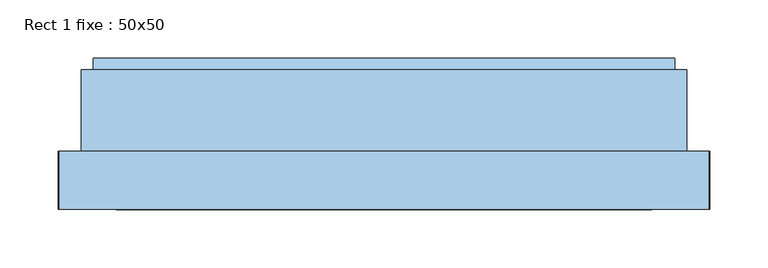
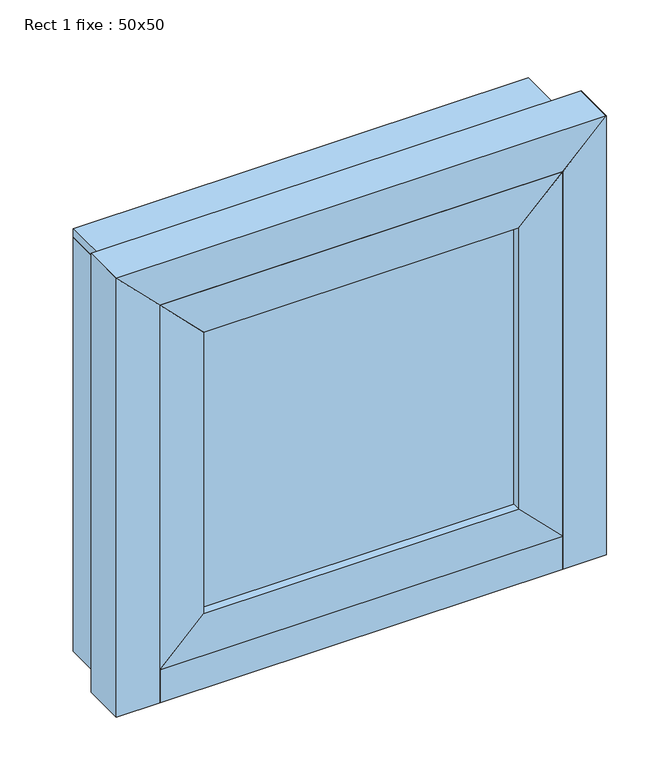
"""IFC4 building model written with IfcOpenShell, lengths in millimetres: window geometry, Rect 1 fixe : 50x50."""

from ifc_helpers import new_model, si_unit, frame, origin, place, context, project, spatial, polyline, outline, extrude, faceted_brep, source, transform, mapped, element, save


def rect_1_fixe_50x50_addd11ee(model_context):
    return source(origin(), model_context, "Body", "SolidModel", [
        extrude(outline(polyline([(1840.0, 180.0), (1840.0, -180.0), (1790.0, -230.0), (1790.0, 230.0), (1840.0, 180.0)])), frame((0.0, -150.0, 0.0), z_axis=(0.0, 1.0, 0.0), x_axis=(0.0, 0.0, 1.0)), (0.0, 0.0, 1.0), 40.0),
        extrude(outline(polyline([(2180.0, 180.0), (1840.0, 180.0), (1790.0, 230.0), (2230.0, 230.0), (2180.0, 180.0)])), frame((0.0, -150.0, 0.0), z_axis=(0.0, 1.0, 0.0), x_axis=(0.0, 0.0, 1.0)), (0.0, 0.0, 1.0), 40.0),
        extrude(outline(polyline([(1840.0, -180.0), (2180.0, -180.0), (2230.0, -230.0), (1790.0, -230.0), (1840.0, -180.0)])), frame((0.0, -150.0, 0.0), z_axis=(0.0, 1.0, 0.0), x_axis=(0.0, 0.0, 1.0)), (0.0, 0.0, 1.0), 40.0),
        extrude(outline(polyline([(-180.0, -140.0), (-180.0, -120.0), (180.0, -120.0), (180.0, -140.0), (-180.0, -140.0)])), frame((0.0, 0.0, 1840.0), z_axis=(0.0, 0.0, 1.0), x_axis=(1.0, 0.0, 0.0)), (0.0, 0.0, 1.0), 340.0),
        extrude(outline(polyline([(2180.0, -180.0), (2180.0, 180.0), (2230.0, 230.0), (2230.0, -230.0), (2180.0, -180.0)])), frame((0.0, -150.0, 0.0), z_axis=(0.0, 1.0, 0.0), x_axis=(0.0, 0.0, 1.0)), (0.0, 0.0, 1.0), 40.0),
        faceted_brep([(-230.0, -100.0, 1790.0), (-230.0, -100.0, 1789.7190155), (-230.0, -100.0, 1750.0), (-230.0, -150.0, 1750.0), (-230.0, -150.0, 1790.0), (230.0, -100.0, 1750.0), (230.0, -100.0, 1789.7190155), (230.0, -100.0, 1790.0), (230.0, -150.0, 1790.0), (230.0, -150.0, 1750.0), (-250.0, -100.0, 1750.0), (-250.0, -20.0, 1750.0), (250.0, -20.0, 1750.0), (250.0, -100.0, 1750.0), (-250.0, -100.0, 1789.7190155), (-250.0, -20.0, 1780.0), (250.0, -20.0, 1780.0), (250.0, -100.0, 1789.7190155)], [[[0, 1, 2, 3, 4]], [[5, 6, 7, 8, 9]], [[4, 8, 7, 0]], [[3, 9, 8, 4]], [[2, 10, 11, 12, 13, 5, 9, 3]], [[7, 6, 1, 0]], [[10, 14, 15, 11]], [[13, 12, 16, 17]], [[15, 16, 12, 11]], [[14, 1, 6, 17, 16, 15]], [[10, 2, 1, 14]], [[17, 6, 5, 13]]]),
        extrude(outline(polyline([(260.0, -100.0), (250.0, -100.0), (250.0, -30.0), (260.0, -30.0), (260.0, -100.0)])), frame((0.0, 0.0, 1750.0), z_axis=(0.0, 0.0, 1.0), x_axis=(1.0, 0.0, 0.0)), (0.0, 0.0, 1.0), 500.0),
        extrude(outline(polyline([(-260.0, -100.0), (-260.0, -30.0), (-250.0, -30.0), (-250.0, -100.0), (-260.0, -100.0)])), frame((0.0, 0.0, 1750.0), z_axis=(0.0, 0.0, 1.0), x_axis=(1.0, 0.0, 0.0)), (0.0, 0.0, 1.0), 500.0),
        extrude(outline(polyline([(2280.0, 280.0), (2230.0, 230.0), (1750.0, 230.0), (1750.0, 280.0), (2280.0, 280.0)])), frame((0.0, -150.0, 0.0), z_axis=(0.0, 1.0, 0.0), x_axis=(0.0, 0.0, 1.0)), (0.0, 0.0, 1.0), 50.0),
        extrude(outline(polyline([(2280.0, -280.0), (1750.0, -280.0), (1750.0, -230.0), (2230.0, -230.0), (2280.0, -280.0)])), frame((0.0, -150.0, 0.0), z_axis=(0.0, 1.0, 0.0), x_axis=(0.0, 0.0, 1.0)), (0.0, 0.0, 1.0), 50.0),
        extrude(outline(polyline([(-260.0, -30.0), (260.0, -30.0), (260.0, -100.0), (-260.0, -100.0), (-260.0, -30.0)])), frame((0.0, 0.0, 2250.0), z_axis=(0.0, 0.0, 1.0), x_axis=(1.0, 0.0, 0.0)), (0.0, 0.0, 1.0), 10.0),
        extrude(outline(polyline([(2280.0, 280.0), (2280.0, -280.0), (2230.0, -230.0), (2230.0, 230.0), (2280.0, 280.0)])), frame((0.0, -150.0, 0.0), z_axis=(0.0, 1.0, 0.0), x_axis=(0.0, 0.0, 1.0)), (0.0, 0.0, 1.0), 50.0),
    ])


if __name__ == "__main__":
    model = new_model("IFC4")
    model_context = context("Model", 3, world=origin())
    ifc_project = project(units=[si_unit("LENGTHUNIT", "METRE", prefix="MILLI")], contexts=[model_context])
    site = spatial("IfcSite", under=ifc_project)
    building = spatial("IfcBuilding", under=site)
    placement = place(None, origin())
    rect_1_fixe_50x50_shape = rect_1_fixe_50x50_addd11ee(model_context)
    element("IfcWindow", 1, ObjectType="Rect 1 fixe : 50x50", at=placement, inside=building, context=model_context, shape_type="MappedRepresentation", body=[
        mapped(rect_1_fixe_50x50_shape, transform((0.0, 0.0, 0.0), x_axis=(1.0, 0.0, 0.0), y_axis=(0.0, 1.0, 0.0), z_axis=(0.0, 0.0, 1.0))),
    ])
    save(model, "model.ifc")
